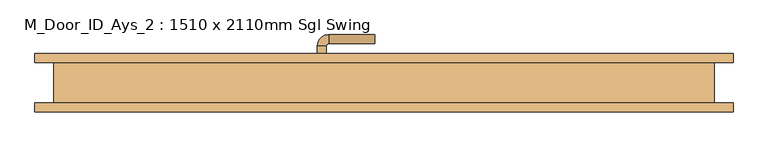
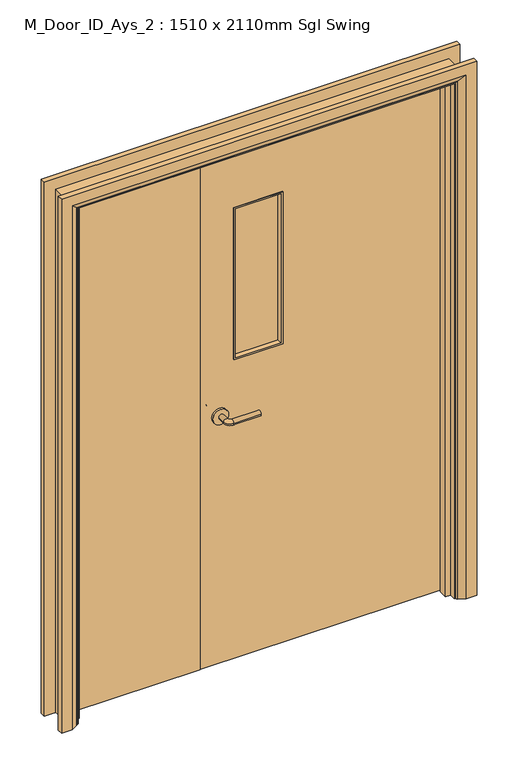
"""IFC4 building model written with IfcOpenShell, lengths in millimetres: door geometry, M_Door_ID_Ays_2 : 1510 x 2110mm Sgl Swing."""

from ifc_helpers import new_model, si_unit, point, frame, frame_2d, origin, place, context, project, spatial, polyline, circle_curve, ellipse_curve, trimmed, segment, composite_curve, outline, extrude, faceted_brep, source, transform, mapped, element, save
from ifc_brep_helpers import plane_surface, cylinder_surface, revolved_surface, advanced_brep


def m_door_id_ays_2_1510_x_2110mm_sgl_swing_42b888ed(model_context):
    return source(origin(), model_context, "Body", "SolidModel", [
        advanced_brep(
        [(88.5, 6.0, 1000.0), (108.5, 6.0, 1000.0), (108.5, -24.0, 1000.0), (88.5, -24.0, 1000.0), (113.5, -29.0, 1000.0), (113.5, -49.0, 1000.0), (218.5, -49.0, 1000.0), (218.5, -29.0, 1000.0)],
        [
            (0, 1, circle_curve(frame((98.5, 6.0, 1000.0), z_axis=(0.0, 1.0, 0.0), x_axis=(1.0, 0.0, 0.0)), 10.0)),
            (1, 0, circle_curve(frame((98.5, 6.0, 1000.0), z_axis=(0.0, 1.0, 0.0), x_axis=(1.0, 0.0, 0.0)), 10.0)),
            (1, 2),
            (2, 3, circle_curve(frame((98.5, -24.0, 1000.0), z_axis=(0.0, 1.0, 0.0), x_axis=(1.0, 0.0, 0.0)), 10.0)),
            (3, 0),
            (3, 2, circle_curve(frame((98.5, -24.0, 1000.0), z_axis=(0.0, 1.0, 0.0), x_axis=(1.0, 0.0, 0.0)), 10.0)),
            (4, 5, circle_curve(frame((113.5, -39.0, 1000.0), z_axis=(-1.0, 0.0, 0.0), x_axis=(0.0, 1.0, 0.0)), 10.0)),
            (5, 3, circle_curve(frame((113.5, -24.0, 1000.0), z_axis=(0.0, 0.0, -1.0), x_axis=(-1.0, 0.0, 0.0)), 25.0)),
            (2, 4, circle_curve(frame((113.5, -24.0, 1000.0), z_axis=(0.0, 0.0, 1.0), x_axis=(-1.0, 0.0, 0.0)), 5.0)),
            (5, 4, circle_curve(frame((113.5, -39.0, 1000.0), z_axis=(-1.0, 0.0, 0.0), x_axis=(0.0, 1.0, 0.0)), 10.0)),
            (6, 7, circle_curve(frame((218.5, -39.0, 1000.0), z_axis=(1.0, 0.0, 0.0), x_axis=(0.0, 1.0, 0.0)), 10.0)),
            (7, 6, circle_curve(frame((218.5, -39.0, 1000.0), z_axis=(1.0, 0.0, 0.0), x_axis=(0.0, 1.0, 0.0)), 10.0)),
            (4, 7),
            (6, 5),
        ],
        [
            plane_surface(frame((98.5, 6.0, 1000.0), z_axis=(0.0, 1.0, 0.0), x_axis=(0.0, 0.0, 1.0))),
            cylinder_surface(frame((98.5, 6.0, 1000.0), z_axis=(0.0, 1.0, 0.0), x_axis=(1.0, 0.0, 0.0)), 10.0),
            revolved_surface(trimmed(ellipse_curve(frame((98.5, -24.0, 1000.0), z_axis=(0.0, -1.0, 0.0), x_axis=(1.0, 0.0, 0.0)), 10.0, 10.0), [point((88.5, -24.0, 1000.0))], [point((108.5, -24.0, 1000.0))], True, "CARTESIAN"), (113.5, -24.0, 1000.0), (0.0, 0.0, -1.0)),
            revolved_surface(trimmed(ellipse_curve(frame((98.5, -24.0, 1000.0), z_axis=(0.0, -1.0, 0.0), x_axis=(1.0, 0.0, 0.0)), 10.0, 10.0), [point((108.5, -24.0, 1000.0))], [point((88.5, -24.0, 1000.0))], True, "CARTESIAN"), (113.5, -24.0, 1000.0), (0.0, 0.0, -1.0)),
            plane_surface(frame((218.5, -39.0, 1000.0), z_axis=(1.0, 0.0, 0.0), x_axis=(0.0, 0.0, 1.0))),
            cylinder_surface(frame((113.5, -39.0, 1000.0), z_axis=(-1.0, 0.0, 0.0), x_axis=(0.0, 1.0, 0.0)), 10.0),
        ],
        [
            (0, [[1, 2]]),
            (1, [[3, 4, 5, -2]]),
            (1, [[-5, 6, -3, -1]]),
            (2, [[7, 8, -4, 9]]),
            (3, [[10, -9, -6, -8]]),
            (4, [[11, 12]]),
            (5, [[13, -11, 14, -7]]),
            (5, [[-14, -12, -13, -10]]),
        ],
    ),
        extrude(outline(composite_curve([segment(trimmed(circle_curve(frame_2d((1000.0, 96.0)), 30.0), [point((1000.0, 66.0))], [point((1000.0, 126.0))], False, "CARTESIAN"), True, "CONTINUOUS"), segment(trimmed(circle_curve(frame_2d((1000.0, 96.0)), 30.0), [point((1000.0, 126.0))], [point((1000.0, 66.0))], False, "CARTESIAN"), True, "CONTINUOUS")], self_intersect=False)), frame((0.0, 6.0, 0.0), z_axis=(0.0, 1.0, 0.0), x_axis=(0.0, 0.0, 1.0)), (0.0, 0.0, 1.0), 8.0),
        advanced_brep(
        [(88.5, 54.0, 1000.0), (108.5, 54.0, 1000.0), (88.5, 84.0, 1000.0), (108.5, 84.0, 1000.0), (113.5, 89.0, 1000.0), (113.5, 109.0, 1000.0), (218.5, 109.0, 1000.0), (218.5, 89.0, 1000.0)],
        [
            (0, 1, circle_curve(frame((98.5, 54.0, 1000.0), z_axis=(0.0, -1.0, 0.0), x_axis=(1.0, 0.0, 0.0)), 10.0)),
            (1, 0, circle_curve(frame((98.5, 54.0, 1000.0), z_axis=(0.0, -1.0, 0.0), x_axis=(1.0, 0.0, 0.0)), 10.0)),
            (0, 2),
            (2, 3, circle_curve(frame((98.5, 84.0, 1000.0), z_axis=(0.0, -1.0, 0.0), x_axis=(1.0, 0.0, 0.0)), 10.0)),
            (3, 1),
            (3, 2, circle_curve(frame((98.5, 84.0, 1000.0), z_axis=(0.0, -1.0, 0.0), x_axis=(1.0, 0.0, 0.0)), 10.0)),
            (4, 3, circle_curve(frame((113.5, 84.0, 1000.0), z_axis=(0.0, 0.0, 1.0), x_axis=(-1.0, 0.0, 0.0)), 5.0)),
            (2, 5, circle_curve(frame((113.5, 84.0, 1000.0), z_axis=(0.0, 0.0, -1.0), x_axis=(-1.0, 0.0, 0.0)), 25.0)),
            (5, 4, circle_curve(frame((113.5, 99.0, 1000.0), z_axis=(-1.0, 0.0, 0.0), x_axis=(0.0, -1.0, 0.0)), 10.0)),
            (4, 5, circle_curve(frame((113.5, 99.0, 1000.0), z_axis=(-1.0, 0.0, 0.0), x_axis=(0.0, -1.0, 0.0)), 10.0)),
            (6, 7, circle_curve(frame((218.5, 99.0, 1000.0), z_axis=(1.0, 0.0, 0.0), x_axis=(0.0, -1.0, 0.0)), 10.0)),
            (7, 6, circle_curve(frame((218.5, 99.0, 1000.0), z_axis=(1.0, 0.0, 0.0), x_axis=(0.0, -1.0, 0.0)), 10.0)),
            (5, 6),
            (7, 4),
        ],
        [
            plane_surface(frame((98.5, 54.0, 1000.0), z_axis=(0.0, -1.0, 0.0), x_axis=(0.0, 0.0, 1.0))),
            cylinder_surface(frame((98.5, 54.0, 1000.0), z_axis=(0.0, -1.0, 0.0), x_axis=(1.0, 0.0, 0.0)), 10.0),
            revolved_surface(trimmed(ellipse_curve(frame((98.5, 84.0, 1000.0), z_axis=(0.0, -1.0, 0.0), x_axis=(1.0, 0.0, 0.0)), 10.0, 10.0), [point((88.5, 84.0, 1000.0))], [point((108.5, 84.0, 1000.0))], True, "CARTESIAN"), (113.5, 84.0, 1000.0), (0.0, 0.0, -1.0)),
            revolved_surface(trimmed(ellipse_curve(frame((98.5, 84.0, 1000.0), z_axis=(0.0, -1.0, 0.0), x_axis=(1.0, 0.0, 0.0)), 10.0, 10.0), [point((108.5, 84.0, 1000.0))], [point((88.5, 84.0, 1000.0))], True, "CARTESIAN"), (113.5, 84.0, 1000.0), (0.0, 0.0, -1.0)),
            plane_surface(frame((218.5, 99.0, 1000.0), z_axis=(1.0, 0.0, 0.0), x_axis=(0.0, 0.0, 1.0))),
            cylinder_surface(frame((113.5, 99.0, 1000.0), z_axis=(-1.0, 0.0, 0.0), x_axis=(0.0, -1.0, 0.0)), 10.0),
        ],
        [
            (0, [[1, 2]]),
            (1, [[-1, 3, 4, 5]]),
            (1, [[-2, -5, 6, -3]]),
            (2, [[7, -4, 8, 9]]),
            (3, [[-8, -6, -7, 10]]),
            (4, [[11, 12]]),
            (5, [[-9, 13, -12, 14]]),
            (5, [[-10, -14, -11, -13]]),
        ],
    ),
        extrude(outline(composite_curve([segment(trimmed(circle_curve(frame_2d((1000.0, 96.0)), 30.0), [point((1000.0, 66.0))], [point((1000.0, 126.0))], False, "CARTESIAN"), True, "CONTINUOUS"), segment(trimmed(circle_curve(frame_2d((1000.0, 96.0)), 30.0), [point((1000.0, 126.0))], [point((1000.0, 66.0))], False, "CARTESIAN"), True, "CONTINUOUS")], self_intersect=False)), frame((0.0, 46.0, 0.0), z_axis=(0.0, 1.0, 0.0), x_axis=(0.0, 0.0, 1.0)), (0.0, 0.0, 1.0), 8.0),
        extrude(outline(polyline([(2102.0, -508.0), (0.0, -508.0), (0.0, -476.0), (2070.0, -476.0), (2070.0, 954.0), (0.0, 954.0), (0.0, 986.0), (2102.0, 986.0), (2102.0, -508.0)])), frame((0.0, -46.0, 0.0), z_axis=(0.0, 1.0, 0.0), x_axis=(0.0, 0.0, 1.0)), (0.0, 0.0, 1.0), 92.0),
        faceted_brep([(-457.0, 11.0, 0.0), (-457.0, -21.0, 0.0), (-476.0, -21.0, 0.0), (-476.0, 11.0, 0.0), (-457.0, 11.0, 2051.0), (-457.0, -21.0, 2051.0), (-476.0, -21.0, 2070.0), (-476.0, 11.0, 2070.0), (935.0, 11.0, 0.0), (954.0, 11.0, 0.0), (954.0, -21.0, 0.0), (935.0, -21.0, 0.0), (935.0, 11.0, 2051.0), (954.0, 11.0, 2070.0), (954.0, -21.0, 2070.0), (935.0, -21.0, 2051.0)], [[[0, 1, 2, 3]], [[1, 0, 4, 5]], [[2, 1, 5, 6]], [[3, 2, 6, 7]], [[0, 3, 7, 4]], [[8, 9, 10, 11]], [[12, 13, 9, 8]], [[13, 14, 10, 9]], [[14, 15, 11, 10]], [[15, 12, 8, 11]], [[5, 4, 12, 15]], [[6, 5, 15, 14]], [[7, 6, 14, 13]], [[4, 7, 13, 12]]]),
        advanced_brep(
        [(1029.0, 66.0, 0.0), (1029.0, 46.0, 0.0), (959.0, 46.0, 0.0), (963.0, 52.0, 0.0), (989.0, 66.0, 0.0), (1029.0, 66.0, 2145.0), (1029.0, 46.0, 2145.0), (-551.0, 46.0, 2145.0), (-551.0, 46.0, 0.0), (-481.0, 46.0, 0.0), (-481.0, 46.0, 2075.0), (959.0, 46.0, 2075.0), (963.0, 52.0, 2079.0), (989.0, 66.0, 2105.0), (-511.0, 66.0, 2105.0), (-511.0, 66.0, 0.0), (-551.0, 66.0, 0.0), (-551.0, 66.0, 2145.0), (-485.0, 52.0, 0.0), (-485.0, 52.0, 2079.0)],
        [
            (0, 1),
            (1, 2),
            (2, 3, circle_curve(frame((967.0, 45.0, 0.0), z_axis=(0.0, 0.0, -1.0), x_axis=(1.0, 0.0, 0.0)), 8.0622577)),
            (3, 4),
            (4, 0),
            (0, 5),
            (5, 6),
            (6, 1),
            (6, 7),
            (7, 8),
            (8, 9),
            (9, 10),
            (10, 11),
            (11, 2),
            (11, 12, ellipse_curve(frame((967.0, 45.0, 2083.0), z_axis=(0.7071067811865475, 0.0, -0.7071067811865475), x_axis=(-0.7071067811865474, 0.0, -0.7071067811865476)), 11.4017543, 8.0622577)),
            (12, 3),
            (12, 13),
            (13, 4),
            (13, 14),
            (14, 15),
            (15, 16),
            (16, 17),
            (17, 5),
            (7, 17),
            (16, 8),
            (15, 18),
            (18, 9, circle_curve(frame((-489.0, 45.0, 0.0), z_axis=(0.0, 0.0, -1.0), x_axis=(-1.0, 0.0, 0.0)), 8.0622577)),
            (19, 10, ellipse_curve(frame((-489.0, 45.0, 2083.0), z_axis=(-0.7071067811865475, 0.0, -0.7071067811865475), x_axis=(-0.7071067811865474, 0.0, 0.7071067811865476)), 11.4017543, 8.0622577)),
            (18, 19),
            (14, 19),
            (19, 12),
        ],
        [
            plane_surface(frame((959.0, 46.0, 0.0), z_axis=(0.0, 0.0, -1.0), x_axis=(0.0, -1.0, 0.0))),
            plane_surface(frame((1029.0, 66.0, 0.0), z_axis=(1.0, 0.0, 0.0), x_axis=(0.0, 0.0, 1.0))),
            plane_surface(frame((1029.0, 46.0, 0.0), z_axis=(0.0, -1.0, 0.0), x_axis=(0.0, 0.0, 1.0))),
            cylinder_surface(frame((967.0, 45.0, 0.0), z_axis=(0.0, 0.0, -1.0), x_axis=(1.0, 0.0, 0.0)), 8.0622577),
            plane_surface(frame((963.0, 52.0, 0.0), z_axis=(-0.4740998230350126, 0.8804710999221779, 0.0), x_axis=(0.0, 0.0, 1.0))),
            plane_surface(frame((989.0, 66.0, 0.0), z_axis=(0.0, 1.0, 0.0), x_axis=(0.0, 0.0, 1.0))),
            plane_surface(frame((-551.0, 66.0, 2145.0), z_axis=(-1.0, 0.0, 0.0), x_axis=(0.0, 0.0, -1.0))),
            plane_surface(frame((-481.0, 46.0, 0.0), z_axis=(0.0, 0.0, -1.0), x_axis=(0.0, -1.0, 0.0))),
            cylinder_surface(frame((-489.0, 45.0, 2075.0), z_axis=(0.0, 0.0, 1.0), x_axis=(-1.0, 0.0, 0.0)), 8.0622577),
            plane_surface(frame((-485.0, 52.0, 2079.0), z_axis=(0.4740998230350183, 0.8804710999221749, 0.0), x_axis=(0.0, 0.0, -1.0))),
            plane_surface(frame((1029.0, 66.0, 2145.0), z_axis=(0.0, 0.0, 1.0), x_axis=(-1.0, 0.0, 0.0))),
            cylinder_surface(frame((959.0, 45.0, 2083.0), z_axis=(1.0, 0.0, 0.0), x_axis=(0.0, 0.0, 1.0)), 8.0622577),
            plane_surface(frame((963.0, 52.0, 2079.0), z_axis=(0.0, 0.8804710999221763, -0.4740998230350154), x_axis=(-1.0, 0.0, 0.0))),
        ],
        [
            (0, [[1, 2, 3, 4, 5]]),
            (1, [[-1, 6, 7, 8]]),
            (2, [[-2, -8, 9, 10, 11, 12, 13, 14]]),
            (3, [[-3, -14, 15, 16]]),
            (4, [[-4, -16, 17, 18]]),
            (5, [[-5, -18, 19, 20, 21, 22, 23, -6]]),
            (6, [[24, -22, 25, -10]]),
            (7, [[-21, 26, 27, -11, -25]]),
            (8, [[28, -12, -27, 29]]),
            (9, [[30, -29, -26, -20]]),
            (10, [[-7, -23, -24, -9]]),
            (11, [[-15, -13, -28, 31]]),
            (12, [[-17, -31, -30, -19]]),
        ],
    ),
        advanced_brep(
        [(-551.0, -66.0, 0.0), (-551.0, -46.0, 0.0), (-481.0, -46.0, 0.0), (-485.0, -52.0, 0.0), (-511.0, -66.0, 0.0), (-551.0, -66.0, 2145.0), (-551.0, -46.0, 2145.0), (1029.0, -46.0, 2145.0), (1029.0, -46.0, 0.0), (959.0, -46.0, 0.0), (959.0, -46.0, 2075.0), (-481.0, -46.0, 2075.0), (-485.0, -52.0, 2079.0), (-511.0, -66.0, 2105.0), (989.0, -66.0, 2105.0), (989.0, -66.0, 0.0), (1029.0, -66.0, 0.0), (1029.0, -66.0, 2145.0), (963.0, -52.0, 0.0), (963.0, -52.0, 2079.0)],
        [
            (0, 1),
            (1, 2),
            (2, 3, circle_curve(frame((-489.0, -45.0, 0.0), z_axis=(0.0, 0.0, -1.0), x_axis=(-1.0, 0.0, 0.0)), 8.0622577)),
            (3, 4),
            (4, 0),
            (0, 5),
            (5, 6),
            (6, 1),
            (6, 7),
            (7, 8),
            (8, 9),
            (9, 10),
            (10, 11),
            (11, 2),
            (11, 12, ellipse_curve(frame((-489.0, -45.0, 2083.0), z_axis=(-0.7071067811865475, 0.0, -0.7071067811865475), x_axis=(0.7071067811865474, 0.0, -0.7071067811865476)), 11.4017543, 8.0622577)),
            (12, 3),
            (12, 13),
            (13, 4),
            (13, 14),
            (14, 15),
            (15, 16),
            (16, 17),
            (17, 5),
            (7, 17),
            (16, 8),
            (15, 18),
            (18, 9, circle_curve(frame((967.0, -45.0, 0.0), z_axis=(0.0, 0.0, -1.0), x_axis=(1.0, 0.0, 0.0)), 8.0622577)),
            (19, 10, ellipse_curve(frame((967.0, -45.0, 2083.0), z_axis=(0.7071067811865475, 0.0, -0.7071067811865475), x_axis=(0.7071067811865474, 0.0, 0.7071067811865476)), 11.4017543, 8.0622577)),
            (18, 19),
            (14, 19),
            (19, 12),
        ],
        [
            plane_surface(frame((-481.0, -46.0, 0.0), z_axis=(0.0, 0.0, -1.0), x_axis=(0.0, -1.0, 0.0))),
            plane_surface(frame((-551.0, -66.0, 0.0), z_axis=(-1.0, 0.0, 0.0), x_axis=(0.0, 0.0, 1.0))),
            plane_surface(frame((-551.0, -46.0, 0.0), z_axis=(0.0, 1.0, 0.0), x_axis=(0.0, 0.0, 1.0))),
            cylinder_surface(frame((-489.0, -45.0, 0.0), z_axis=(0.0, 0.0, -1.0), x_axis=(-1.0, 0.0, 0.0)), 8.0622577),
            plane_surface(frame((-485.0, -52.0, 0.0), z_axis=(0.4740998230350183, -0.8804710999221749, 0.0), x_axis=(0.0, 0.0, 1.0))),
            plane_surface(frame((-511.0, -66.0, 0.0), z_axis=(0.0, -1.0, 0.0), x_axis=(0.0, 0.0, 1.0))),
            plane_surface(frame((1029.0, -66.0, 2145.0), z_axis=(1.0, 0.0, 0.0), x_axis=(0.0, 0.0, -1.0))),
            plane_surface(frame((959.0, -46.0, 0.0), z_axis=(0.0, 0.0, -1.0), x_axis=(0.0, -1.0, 0.0))),
            cylinder_surface(frame((967.0, -45.0, 2075.0), z_axis=(0.0, 0.0, 1.0), x_axis=(1.0, 0.0, 0.0)), 8.0622577),
            plane_surface(frame((963.0, -52.0, 2079.0), z_axis=(-0.4740998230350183, -0.8804710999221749, 0.0), x_axis=(0.0, 0.0, -1.0))),
            plane_surface(frame((-551.0, -66.0, 2145.0), z_axis=(0.0, 0.0, 1.0), x_axis=(1.0, 0.0, 0.0))),
            cylinder_surface(frame((-481.0, -45.0, 2083.0), z_axis=(-1.0, 0.0, 0.0), x_axis=(0.0, 0.0, 1.0)), 8.0622577),
            plane_surface(frame((-485.0, -52.0, 2079.0), z_axis=(0.0, -0.8804710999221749, -0.4740998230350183), x_axis=(1.0, 0.0, 0.0))),
        ],
        [
            (0, [[1, 2, 3, 4, 5]]),
            (1, [[-1, 6, 7, 8]]),
            (2, [[-2, -8, 9, 10, 11, 12, 13, 14]]),
            (3, [[-3, -14, 15, 16]]),
            (4, [[-4, -16, 17, 18]]),
            (5, [[-5, -18, 19, 20, 21, 22, 23, -6]]),
            (6, [[24, -22, 25, -10]]),
            (7, [[-21, 26, 27, -11, -25]]),
            (8, [[28, -12, -27, 29]]),
            (9, [[30, -29, -26, -20]]),
            (10, [[-7, -23, -24, -9]]),
            (11, [[-15, -13, -28, 31]]),
            (12, [[-17, -31, -30, -19]]),
        ],
    ),
        extrude(outline(polyline([(5.753223, 951.0), (2067.0, 951.0), (2067.0, 25.0), (5.753223, 25.0), (5.753223, 951.0)]), holes=[polyline([(1817.0, 150.0), (1817.0, 335.0), (1207.0, 335.0), (1207.0, 150.0), (1817.0, 150.0)])]), frame((0.0, 14.0, 0.0), z_axis=(0.0, 1.0, 0.0), x_axis=(0.0, 0.0, 1.0)), (0.0, 0.0, 1.0), 32.0),
        extrude(outline(polyline([(22.0, 14.0), (-473.0, 14.0), (-473.0, 46.0), (22.0, 46.0), (22.0, 14.0)])), frame((0.0, 0.0, 5.753223), z_axis=(0.0, 0.0, 1.0), x_axis=(1.0, 0.0, 0.0)), (0.0, 0.0, 1.0), 2061.246777),
        extrude(outline(polyline([(335.0, 24.0), (150.0, 24.0), (150.0, 36.0), (335.0, 36.0), (335.0, 24.0)])), frame((0.0, 0.0, 1207.0), z_axis=(0.0, 0.0, 1.0), x_axis=(1.0, 0.0, 0.0)), (0.0, 0.0, 1.0), 610.0),
        faceted_brep([(150.0, 49.0, 1207.0), (150.0, 36.0, 1207.0), (150.0, 36.0, 1817.0), (150.0, 49.0, 1817.0), (162.0, 36.0, 1219.0), (156.0, 49.0, 1213.0), (156.0, 49.0, 1811.0), (162.0, 36.0, 1805.0), (335.0, 36.0, 1817.0), (335.0, 49.0, 1817.0), (329.0, 49.0, 1811.0), (323.0, 36.0, 1805.0), (335.0, 36.0, 1207.0), (335.0, 49.0, 1207.0), (329.0, 49.0, 1213.0), (323.0, 36.0, 1219.0)], [[[0, 1, 2, 3]], [[4, 5, 6, 7]], [[3, 2, 8, 9]], [[7, 6, 10, 11]], [[9, 8, 12, 13]], [[11, 10, 14, 15]], [[1, 12, 8, 2], [7, 11, 15, 4]], [[13, 12, 1, 0]], [[3, 9, 13, 0], [5, 14, 10, 6]], [[15, 14, 5, 4]]]),
        faceted_brep([(335.0, 11.0, 1207.0), (335.0, 24.0, 1207.0), (335.0, 24.0, 1817.0), (335.0, 11.0, 1817.0), (323.0, 24.0, 1219.0), (329.0, 11.0, 1213.0), (329.0, 11.0, 1811.0), (323.0, 24.0, 1805.0), (150.0, 24.0, 1817.0), (150.0, 11.0, 1817.0), (156.0, 11.0, 1811.0), (162.0, 24.0, 1805.0), (150.0, 24.0, 1207.0), (150.0, 11.0, 1207.0), (156.0, 11.0, 1213.0), (162.0, 24.0, 1219.0)], [[[0, 1, 2, 3]], [[4, 5, 6, 7]], [[3, 2, 8, 9]], [[7, 6, 10, 11]], [[9, 8, 12, 13]], [[11, 10, 14, 15]], [[1, 12, 8, 2], [7, 11, 15, 4]], [[13, 12, 1, 0]], [[3, 9, 13, 0], [5, 14, 10, 6]], [[15, 14, 5, 4]]]),
    ])


if __name__ == "__main__":
    model = new_model("IFC4")
    model_context = context("Model", 3, world=origin())
    ifc_project = project(units=[si_unit("LENGTHUNIT", "METRE", prefix="MILLI")], contexts=[model_context])
    site = spatial("IfcSite", under=ifc_project)
    building = spatial("IfcBuilding", under=site)
    placement = place(None, origin())
    m_door_id_ays_2_1510_x_2110mm_sgl_swing_shape = m_door_id_ays_2_1510_x_2110mm_sgl_swing_42b888ed(model_context)
    element("IfcDoor", 1, ObjectType="M_Door_ID_Ays_2 : 1510 x 2110mm Sgl Swing", at=placement, inside=building, context=model_context, shape_type="MappedRepresentation", body=[
        mapped(m_door_id_ays_2_1510_x_2110mm_sgl_swing_shape, transform((0.0, 0.0, 0.0), x_axis=(1.0, 0.0, 0.0), y_axis=(0.0, 1.0, 0.0), z_axis=(0.0, 0.0, 1.0))),
    ])
    save(model, "model.ifc")
